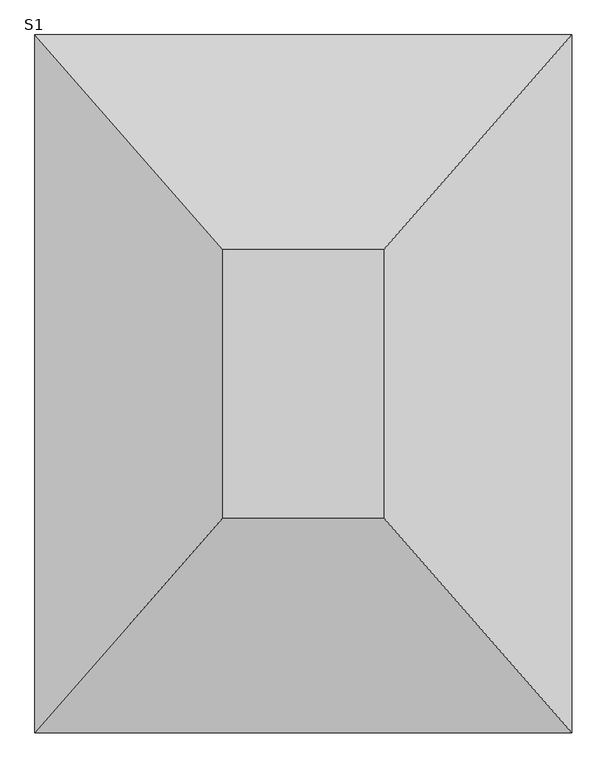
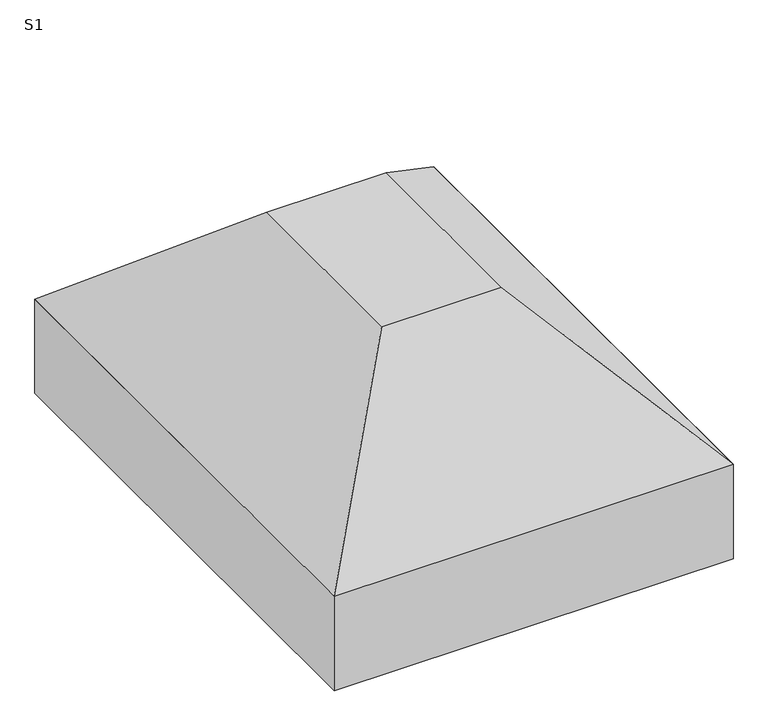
"""IFC4 building model written with IfcOpenShell, lengths in millimetres: fastener geometry, TQS - Sapata : S1."""

from ifc_helpers import new_model, si_unit, frame, origin, place, context, project, spatial, polyline, outline, extrude, faceted_brep, source, transform, mapped, element, save


def s1_4bae340d(model_context):
    return source(origin(), model_context, "Body", "SolidModel", [
        faceted_brep([(-50.0, 50.0, 0.0), (-350.0, 50.0, 0.0), (-350.0, -450.0, 0.0), (-50.0, -450.0, 0.0), (300.0, 450.0, -350.0), (300.0, -850.0, -350.0), (-700.0, -850.0, -350.0), (-700.0, 450.0, -350.0)], [[[0, 1, 2, 3]], [[4, 5, 6, 7]], [[4, 7, 1, 0]], [[7, 6, 2, 1]], [[6, 5, 3, 2]], [[5, 4, 0, 3]]]),
        extrude(outline(polyline([(300.0, 450.0), (300.0, -850.0), (-700.0, -850.0), (-700.0, 450.0), (300.0, 450.0)])), frame((0.0, 0.0, -600.0), z_axis=(0.0, 0.0, 1.0), x_axis=(1.0, 0.0, 0.0)), (0.0, 0.0, 1.0), 250.0),
    ])


if __name__ == "__main__":
    model = new_model("IFC4")
    model_context = context("Model", 3, world=origin())
    ifc_project = project(units=[si_unit("LENGTHUNIT", "METRE", prefix="MILLI")], contexts=[model_context])
    site = spatial("IfcSite", under=ifc_project)
    building = spatial("IfcBuilding", under=site)
    placement = place(None, origin())
    s1_shape = s1_4bae340d(model_context)
    element("IfcFastener", 1, ObjectType="TQS - Sapata : S1", at=placement, inside=building, context=model_context, shape_type="MappedRepresentation", body=[
        mapped(s1_shape, transform((0.0, 0.0, 0.0), x_axis=(1.0, 0.0, 0.0), y_axis=(0.0, 1.0, 0.0), z_axis=(0.0, 0.0, 1.0))),
    ])
    save(model, "model.ifc")
